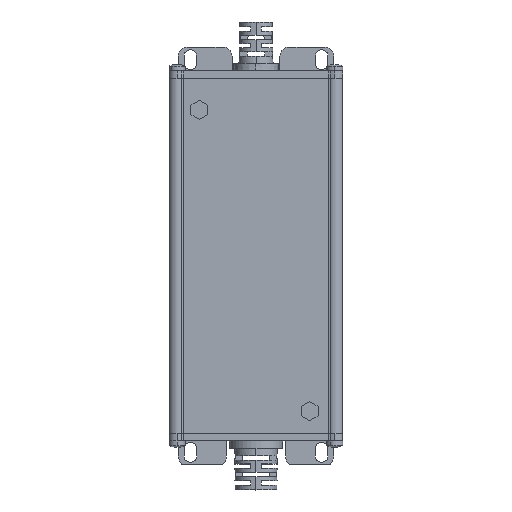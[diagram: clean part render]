
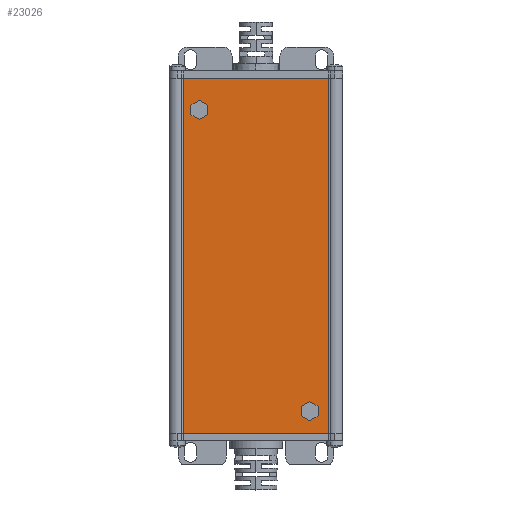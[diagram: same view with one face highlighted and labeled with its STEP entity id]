
A CAD part, top view. The second image highlights one B-rep face of the part: STEP entity #23026.
In plain terms, the highlighted planar face has unit normal (0, 0, 1).
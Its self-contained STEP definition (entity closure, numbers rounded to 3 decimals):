
#1239 = LINE ( 'NONE', #62744, #60506 ) ;
#1949 = VECTOR ( 'NONE', #15254, 1000. ) ;
#3123 = EDGE_CURVE ( 'NONE', #8765, #37362, #65657, .T. ) ;
#3888 = CARTESIAN_POINT ( 'NONE',  ( 4.347, -46.807, 133.926 ) ) ;
#5415 = EDGE_CURVE ( 'NONE', #54415, #50966, #22066, .T. ) ;
#5499 = CARTESIAN_POINT ( 'NONE',  ( -32.653, 50.86, 133.926 ) ) ;
#6021 = VERTEX_POINT ( 'NONE', #70593 ) ;
#6506 = ORIENTED_EDGE ( 'NONE', *, *, #69846, .F. ) ;
#7709 = LINE ( 'NONE', #38261, #64483 ) ;
#8681 = CARTESIAN_POINT ( 'NONE',  ( -32.653, 50.86, 133.926 ) ) ;
#8695 = LINE ( 'NONE', #69130, #62907 ) ;
#8765 = VERTEX_POINT ( 'NONE', #31075 ) ;
#9281 = DIRECTION ( 'NONE',  ( 0., -1., 0. ) ) ;
#11030 = DIRECTION ( 'NONE',  ( 0.866, -0.5, 0. ) ) ;
#11154 = LINE ( 'NONE', #42222, #67029 ) ;
#11288 = VECTOR ( 'NONE', #19554, 1000. ) ;
#11656 = VERTEX_POINT ( 'NONE', #35290 ) ;
#12030 = EDGE_CURVE ( 'NONE', #37362, #6021, #24573, .T. ) ;
#12461 = CARTESIAN_POINT ( 'NONE',  ( -40.885, -55.923, 133.926 ) ) ;
#13178 = VECTOR ( 'NONE', #31329, 1000. ) ;
#14227 = CARTESIAN_POINT ( 'NONE',  ( -40.885, -55.923, 133.926 ) ) ;
#14860 = FACE_BOUND ( 'NONE', #62245, .T. ) ;
#15254 = DIRECTION ( 'NONE',  ( 0.866, 0.5, 0. ) ) ;
#15720 = CARTESIAN_POINT ( 'NONE',  ( -35.453, 49.244, 133.926 ) ) ;
#16265 = VERTEX_POINT ( 'NONE', #52837 ) ;
#16668 = CARTESIAN_POINT ( 'NONE',  ( -38.253, 54.093, 133.926 ) ) ;
#16747 = AXIS2_PLACEMENT_3D ( 'NONE', #30990, #19450, #52131 ) ;
#18902 = CARTESIAN_POINT ( 'NONE',  ( 7.979, -55.923, 133.926 ) ) ;
#18971 = CARTESIAN_POINT ( 'NONE',  ( 7.979, 63.077, 133.926 ) ) ;
#19408 = VECTOR ( 'NONE', #39997, 1000. ) ;
#19450 = DIRECTION ( 'NONE',  ( 0., 0., -1. ) ) ;
#19530 = ORIENTED_EDGE ( 'NONE', *, *, #59215, .F. ) ;
#19554 = DIRECTION ( 'NONE',  ( 0., -1., 0. ) ) ;
#19772 = DIRECTION ( 'NONE',  ( 0., 1., 0. ) ) ;
#19902 = DIRECTION ( 'NONE',  ( 1., 0., 0. ) ) ;
#21559 = LINE ( 'NONE', #14227, #36158 ) ;
#22066 = LINE ( 'NONE', #8681, #28883 ) ;
#22661 = EDGE_CURVE ( 'NONE', #66410, #25604, #33800, .T. ) ;
#22877 = LINE ( 'NONE', #42933, #45204 ) ;
#23026 = ADVANCED_FACE ( 'NONE', ( #14860, #59532, #44879 ), #69196, .F. ) ;
#23247 = ORIENTED_EDGE ( 'NONE', *, *, #56982, .F. ) ;
#23395 = CARTESIAN_POINT ( 'NONE',  ( -38.253, 50.86, 133.926 ) ) ;
#24573 = LINE ( 'NONE', #56823, #19408 ) ;
#24951 = EDGE_CURVE ( 'NONE', #6021, #68971, #33456, .T. ) ;
#25604 = VERTEX_POINT ( 'NONE', #12461 ) ;
#26299 = CARTESIAN_POINT ( 'NONE',  ( 4.347, -50.04, 133.926 ) ) ;
#26355 = VERTEX_POINT ( 'NONE', #16668 ) ;
#27443 = CARTESIAN_POINT ( 'NONE',  ( -40.885, 63.077, 133.926 ) ) ;
#28117 = EDGE_CURVE ( 'NONE', #26355, #33145, #11154, .T. ) ;
#28883 = VECTOR ( 'NONE', #19772, 1000. ) ;
#29924 = CARTESIAN_POINT ( 'NONE',  ( -35.453, 49.244, 133.926 ) ) ;
#30155 = EDGE_CURVE ( 'NONE', #11656, #26355, #37660, .T. ) ;
#30267 = ORIENTED_EDGE ( 'NONE', *, *, #30155, .F. ) ;
#30990 = CARTESIAN_POINT ( 'NONE',  ( -40.885, 63.077, 133.926 ) ) ;
#31075 = CARTESIAN_POINT ( 'NONE',  ( 4.347, -46.807, 133.926 ) ) ;
#31329 = DIRECTION ( 'NONE',  ( -0.866, 0.5, 0. ) ) ;
#32299 = VERTEX_POINT ( 'NONE', #26299 ) ;
#33145 = VERTEX_POINT ( 'NONE', #23395 ) ;
#33436 = ORIENTED_EDGE ( 'NONE', *, *, #22661, .T. ) ;
#33456 = LINE ( 'NONE', #34788, #63579 ) ;
#33800 = LINE ( 'NONE', #27443, #59601 ) ;
#34201 = VECTOR ( 'NONE', #68799, 1000. ) ;
#34276 = ORIENTED_EDGE ( 'NONE', *, *, #66433, .F. ) ;
#34758 = EDGE_CURVE ( 'NONE', #70133, #68222, #40515, .T. ) ;
#34788 = CARTESIAN_POINT ( 'NONE',  ( -1.253, -46.807, 133.926 ) ) ;
#35290 = CARTESIAN_POINT ( 'NONE',  ( -35.453, 55.71, 133.926 ) ) ;
#35470 = DIRECTION ( 'NONE',  ( 0., -1., 0. ) ) ;
#35518 = ORIENTED_EDGE ( 'NONE', *, *, #59988, .F. ) ;
#36158 = VECTOR ( 'NONE', #69720, 1000. ) ;
#37362 = VERTEX_POINT ( 'NONE', #59315 ) ;
#37660 = LINE ( 'NONE', #57500, #34201 ) ;
#38261 = CARTESIAN_POINT ( 'NONE',  ( -32.653, 54.093, 133.926 ) ) ;
#38264 = ORIENTED_EDGE ( 'NONE', *, *, #28117, .F. ) ;
#39997 = DIRECTION ( 'NONE',  ( -0.866, -0.5, 0. ) ) ;
#40389 = VECTOR ( 'NONE', #11030, 1000. ) ;
#40515 = LINE ( 'NONE', #51991, #11288 ) ;
#40803 = LINE ( 'NONE', #61928, #41703 ) ;
#41703 = VECTOR ( 'NONE', #45599, 1000. ) ;
#42222 = CARTESIAN_POINT ( 'NONE',  ( -38.253, 54.093, 133.926 ) ) ;
#42933 = CARTESIAN_POINT ( 'NONE',  ( -40.885, 63.077, 133.926 ) ) ;
#43344 = CARTESIAN_POINT ( 'NONE',  ( -40.885, 63.077, 133.926 ) ) ;
#44486 = CARTESIAN_POINT ( 'NONE',  ( -1.253, -50.04, 133.926 ) ) ;
#44879 = FACE_OUTER_BOUND ( 'NONE', #70473, .T. ) ;
#45204 = VECTOR ( 'NONE', #19902, 1000. ) ;
#45335 = ORIENTED_EDGE ( 'NONE', *, *, #34758, .F. ) ;
#45599 = DIRECTION ( 'NONE',  ( 0., 1., 0. ) ) ;
#47429 = EDGE_CURVE ( 'NONE', #50966, #11656, #7709, .T. ) ;
#50693 = DIRECTION ( 'NONE',  ( -0.866, 0.5, 0. ) ) ;
#50966 = VERTEX_POINT ( 'NONE', #64013 ) ;
#50972 = EDGE_CURVE ( 'NONE', #59792, #54415, #54436, .T. ) ;
#51991 = CARTESIAN_POINT ( 'NONE',  ( 7.979, 63.077, 133.926 ) ) ;
#52131 = DIRECTION ( 'NONE',  ( -1., 0., 0. ) ) ;
#52564 = EDGE_CURVE ( 'NONE', #25604, #68222, #21559, .T. ) ;
#52837 = CARTESIAN_POINT ( 'NONE',  ( 1.547, -51.656, 133.926 ) ) ;
#54415 = VERTEX_POINT ( 'NONE', #5499 ) ;
#54436 = LINE ( 'NONE', #29924, #1949 ) ;
#54774 = CARTESIAN_POINT ( 'NONE',  ( -38.253, 50.86, 133.926 ) ) ;
#55018 = LINE ( 'NONE', #54774, #40389 ) ;
#56220 = ORIENTED_EDGE ( 'NONE', *, *, #12030, .F. ) ;
#56823 = CARTESIAN_POINT ( 'NONE',  ( 1.547, -45.19, 133.926 ) ) ;
#56982 = EDGE_CURVE ( 'NONE', #33145, #59792, #55018, .T. ) ;
#57500 = CARTESIAN_POINT ( 'NONE',  ( -35.453, 55.71, 133.926 ) ) ;
#59215 = EDGE_CURVE ( 'NONE', #66410, #70133, #22877, .T. ) ;
#59315 = CARTESIAN_POINT ( 'NONE',  ( 1.547, -45.19, 133.926 ) ) ;
#59485 = EDGE_LOOP ( 'NONE', ( #66674, #23247, #38264, #30267, #66335, #70456 ) ) ;
#59532 = FACE_BOUND ( 'NONE', #59485, .T. ) ;
#59601 = VECTOR ( 'NONE', #35470, 1000. ) ;
#59792 = VERTEX_POINT ( 'NONE', #15720 ) ;
#59988 = EDGE_CURVE ( 'NONE', #32299, #8765, #40803, .T. ) ;
#60506 = VECTOR ( 'NONE', #67363, 1000. ) ;
#61928 = CARTESIAN_POINT ( 'NONE',  ( 4.347, -50.04, 133.926 ) ) ;
#62245 = EDGE_LOOP ( 'NONE', ( #6506, #34276, #67597, #56220, #69381, #35518 ) ) ;
#62744 = CARTESIAN_POINT ( 'NONE',  ( -1.253, -50.04, 133.926 ) ) ;
#62857 = DIRECTION ( 'NONE',  ( 0., -1., 0. ) ) ;
#62907 = VECTOR ( 'NONE', #64540, 1000. ) ;
#63579 = VECTOR ( 'NONE', #62857, 1000. ) ;
#64013 = CARTESIAN_POINT ( 'NONE',  ( -32.653, 54.093, 133.926 ) ) ;
#64317 = ORIENTED_EDGE ( 'NONE', *, *, #52564, .T. ) ;
#64483 = VECTOR ( 'NONE', #50693, 1000. ) ;
#64540 = DIRECTION ( 'NONE',  ( 0.866, 0.5, 0. ) ) ;
#65657 = LINE ( 'NONE', #3888, #13178 ) ;
#66335 = ORIENTED_EDGE ( 'NONE', *, *, #47429, .F. ) ;
#66410 = VERTEX_POINT ( 'NONE', #43344 ) ;
#66433 = EDGE_CURVE ( 'NONE', #68971, #16265, #1239, .T. ) ;
#66674 = ORIENTED_EDGE ( 'NONE', *, *, #50972, .F. ) ;
#67029 = VECTOR ( 'NONE', #9281, 1000. ) ;
#67363 = DIRECTION ( 'NONE',  ( 0.866, -0.5, 0. ) ) ;
#67597 = ORIENTED_EDGE ( 'NONE', *, *, #24951, .F. ) ;
#68222 = VERTEX_POINT ( 'NONE', #18902 ) ;
#68799 = DIRECTION ( 'NONE',  ( -0.866, -0.5, 0. ) ) ;
#68971 = VERTEX_POINT ( 'NONE', #44486 ) ;
#69130 = CARTESIAN_POINT ( 'NONE',  ( 1.547, -51.656, 133.926 ) ) ;
#69196 = PLANE ( 'NONE',  #16747 ) ;
#69381 = ORIENTED_EDGE ( 'NONE', *, *, #3123, .F. ) ;
#69720 = DIRECTION ( 'NONE',  ( 1., 0., 0. ) ) ;
#69846 = EDGE_CURVE ( 'NONE', #16265, #32299, #8695, .T. ) ;
#70133 = VERTEX_POINT ( 'NONE', #18971 ) ;
#70456 = ORIENTED_EDGE ( 'NONE', *, *, #5415, .F. ) ;
#70473 = EDGE_LOOP ( 'NONE', ( #64317, #45335, #19530, #33436 ) ) ;
#70593 = CARTESIAN_POINT ( 'NONE',  ( -1.253, -46.807, 133.926 ) ) ;
